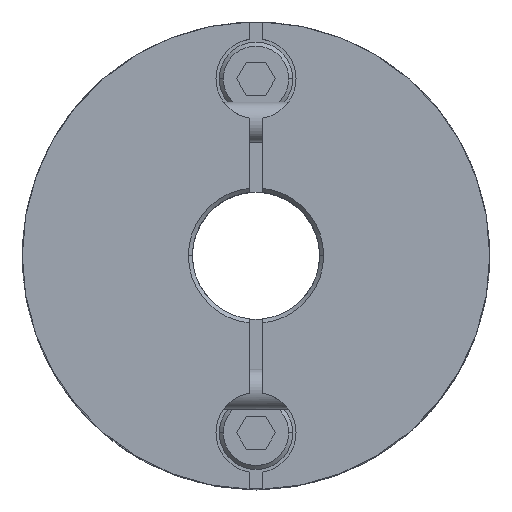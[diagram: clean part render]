
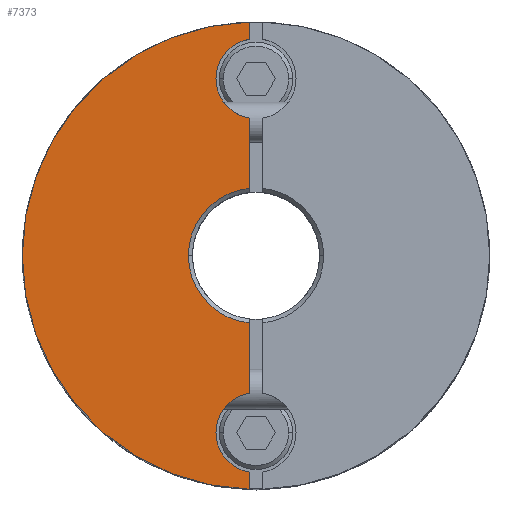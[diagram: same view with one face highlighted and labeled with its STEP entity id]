
A CAD part, top view. The second image highlights one B-rep face of the part: STEP entity #7373.
In plain terms, the highlighted planar face has unit normal (0, 0, 1).
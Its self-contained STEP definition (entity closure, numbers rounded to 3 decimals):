
#751=CARTESIAN_POINT('',(-5.063,0.,13.5));
#752=VERTEX_POINT('',#751);
#759=CARTESIAN_POINT('',(-0.5,-5.038,13.5));
#760=VERTEX_POINT('',#759);
#761=CARTESIAN_POINT('',(0.0,0.,13.5));
#762=DIRECTION('',(0.0,0.0,1.0));
#763=DIRECTION('',(1.0,0.0,0.0));
#764=AXIS2_PLACEMENT_3D('',#761,#762,#763);
#765=CIRCLE('',#764,5.063);
#766=EDGE_CURVE('',#752,#760,#765,.T.);
#831=CARTESIAN_POINT('',(-17.5,0.,13.5));
#832=VERTEX_POINT('',#831);
#916=CARTESIAN_POINT('',(-0.5,-17.493,13.5));
#917=VERTEX_POINT('',#916);
#924=CARTESIAN_POINT('',(0.0,0.,13.5));
#925=DIRECTION('',(0.0,0.0,-1.0));
#926=DIRECTION('',(-1.0,0.0,0.0));
#927=AXIS2_PLACEMENT_3D('',#924,#925,#926);
#928=CIRCLE('',#927,17.5);
#929=EDGE_CURVE('',#917,#832,#928,.T.);
#1353=CARTESIAN_POINT('',(-3.,-13.25,13.5));
#1354=VERTEX_POINT('',#1353);
#1363=CARTESIAN_POINT('',(-0.5,-16.208,13.5));
#1364=VERTEX_POINT('',#1363);
#1365=CARTESIAN_POINT('',(0.,-13.25,13.5));
#1366=DIRECTION('',(0.0,0.0,-1.0));
#1367=DIRECTION('',(-1.0,0.0,0.0));
#1368=AXIS2_PLACEMENT_3D('',#1365,#1366,#1367);
#1369=CIRCLE('',#1368,3.0);
#1370=EDGE_CURVE('',#1364,#1354,#1369,.T.);
#1585=CARTESIAN_POINT('',(-3.,13.25,13.5));
#1586=VERTEX_POINT('',#1585);
#1595=CARTESIAN_POINT('',(-0.5,10.292,13.5));
#1596=VERTEX_POINT('',#1595);
#1597=CARTESIAN_POINT('',(0.,13.25,13.5));
#1598=DIRECTION('',(0.0,0.0,-1.0));
#1599=DIRECTION('',(-1.0,0.0,0.0));
#1600=AXIS2_PLACEMENT_3D('',#1597,#1598,#1599);
#1601=CIRCLE('',#1600,3.0);
#1602=EDGE_CURVE('',#1596,#1586,#1601,.T.);
#6080=CARTESIAN_POINT('',(-0.5,16.208,13.5));
#6081=VERTEX_POINT('',#6080);
#6088=CARTESIAN_POINT('',(0.,13.25,13.5));
#6089=DIRECTION('',(0.0,0.0,-1.0));
#6090=DIRECTION('',(-1.0,0.0,0.0));
#6091=AXIS2_PLACEMENT_3D('',#6088,#6089,#6090);
#6092=CIRCLE('',#6091,3.0);
#6093=EDGE_CURVE('',#1586,#6081,#6092,.T.);
#6495=CARTESIAN_POINT('',(-0.5,-10.292,13.5));
#6496=VERTEX_POINT('',#6495);
#6503=CARTESIAN_POINT('',(0.,-13.25,13.5));
#6504=DIRECTION('',(0.0,0.0,-1.0));
#6505=DIRECTION('',(-1.0,0.0,0.0));
#6506=AXIS2_PLACEMENT_3D('',#6503,#6504,#6505);
#6507=CIRCLE('',#6506,3.0);
#6508=EDGE_CURVE('',#1354,#6496,#6507,.T.);
#6657=CARTESIAN_POINT('',(-0.5,5.038,13.5));
#6658=VERTEX_POINT('',#6657);
#6659=CARTESIAN_POINT('',(-0.5,5.038,13.5));
#6660=DIRECTION('',(0.0,1.0,0.0));
#6661=VECTOR('',#6660,5.254);
#6662=LINE('',#6659,#6661);
#6663=EDGE_CURVE('',#6658,#1596,#6662,.T.);
#6714=CARTESIAN_POINT('',(-0.5,-10.292,13.5));
#6715=DIRECTION('',(0.0,1.0,0.0));
#6716=VECTOR('',#6715,5.254);
#6717=LINE('',#6714,#6716);
#6718=EDGE_CURVE('',#6496,#760,#6717,.T.);
#7319=CARTESIAN_POINT('',(-0.5,-17.493,13.5));
#7320=DIRECTION('',(0.0,1.0,0.0));
#7321=VECTOR('',#7320,1.285);
#7322=LINE('',#7319,#7321);
#7323=EDGE_CURVE('',#917,#1364,#7322,.T.);
#7335=CARTESIAN_POINT('',(-1.591,0.,13.5));
#7336=DIRECTION('',(0.0,0.0,1.0));
#7337=DIRECTION('',(-1.0,0.0,0.0));
#7338=AXIS2_PLACEMENT_3D('',#7335,#7336,#7337);
#7339=PLANE('',#7338);
#7340=ORIENTED_EDGE('',*,*,#1370,.T.);
#7341=ORIENTED_EDGE('',*,*,#6508,.T.);
#7342=ORIENTED_EDGE('',*,*,#6718,.T.);
#7343=ORIENTED_EDGE('',*,*,#766,.F.);
#7344=CARTESIAN_POINT('',(0.0,0.,13.5));
#7345=DIRECTION('',(0.0,0.0,1.0));
#7346=DIRECTION('',(1.0,0.0,0.0));
#7347=AXIS2_PLACEMENT_3D('',#7344,#7345,#7346);
#7348=CIRCLE('',#7347,5.063);
#7349=EDGE_CURVE('',#6658,#752,#7348,.T.);
#7350=ORIENTED_EDGE('',*,*,#7349,.F.);
#7351=ORIENTED_EDGE('',*,*,#6663,.T.);
#7352=ORIENTED_EDGE('',*,*,#1602,.T.);
#7353=ORIENTED_EDGE('',*,*,#6093,.T.);
#7354=CARTESIAN_POINT('',(-0.5,17.493,13.5));
#7355=VERTEX_POINT('',#7354);
#7356=CARTESIAN_POINT('',(-0.5,16.208,13.5));
#7357=DIRECTION('',(0.0,1.0,0.0));
#7358=VECTOR('',#7357,1.285);
#7359=LINE('',#7356,#7358);
#7360=EDGE_CURVE('',#6081,#7355,#7359,.T.);
#7361=ORIENTED_EDGE('',*,*,#7360,.T.);
#7362=CARTESIAN_POINT('',(0.0,0.,13.5));
#7363=DIRECTION('',(0.0,0.0,-1.0));
#7364=DIRECTION('',(-1.0,0.0,0.0));
#7365=AXIS2_PLACEMENT_3D('',#7362,#7363,#7364);
#7366=CIRCLE('',#7365,17.5);
#7367=EDGE_CURVE('',#832,#7355,#7366,.T.);
#7368=ORIENTED_EDGE('',*,*,#7367,.F.);
#7369=ORIENTED_EDGE('',*,*,#929,.F.);
#7370=ORIENTED_EDGE('',*,*,#7323,.T.);
#7371=EDGE_LOOP('',(#7340,#7341,#7342,#7343,#7350,#7351,#7352,#7353,#7361,#7368,#7369,#7370));
#7372=FACE_OUTER_BOUND('',#7371,.T.);
#7373=ADVANCED_FACE('',(#7372),#7339,.T.);
